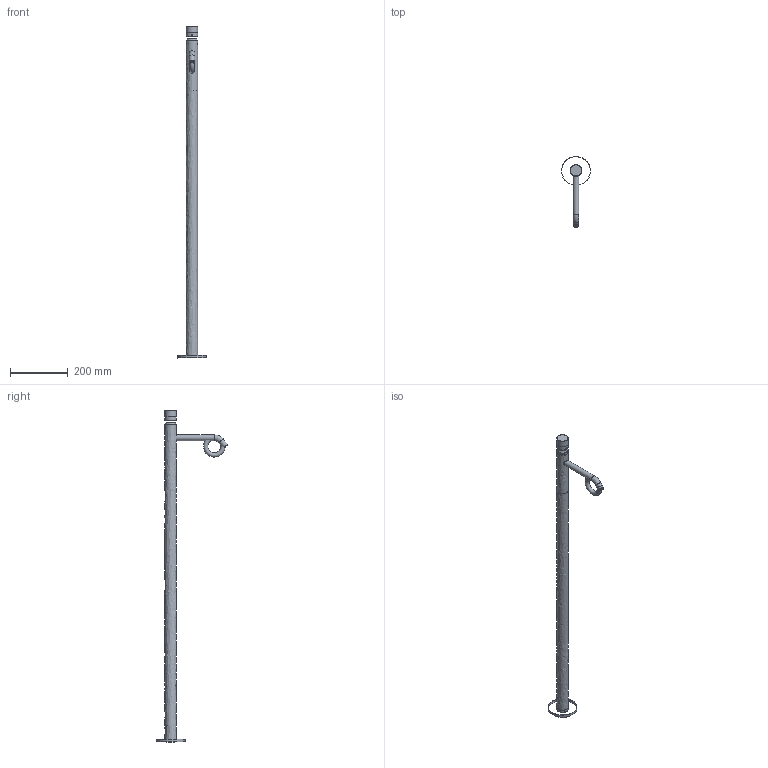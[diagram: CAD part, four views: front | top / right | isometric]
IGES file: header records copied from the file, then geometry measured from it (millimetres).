
Start section: Data from Parasolid IGES Translator 22.0.50, Copyright(c) 2006 Siemens P LM Software. All Rights Reserved.
Global section: file name: noorth-taps-H 115 D 24,8 W 10_5839.igs; native system: By Siemens PLM Incorporated; preprocessor: XPlus GENERIC/IGES 22.0.50; author: Noname; organization: Noname; date: 20260215.162211; units: metre
Bounding box: 100 x 247.95 x 1151.82 mm (x, y, z)
Volume: 114189.2 mm3; surface area: 205609.4 mm2
Topology: 4 solids, 4 shells, 405 faces, 1108 edges, 853 vertices
Faces by surface type: plane 166, cylinder 139, bspline 76, revolution 14, extrusion 4, cone 3, torus 3
Full cylindrical faces by diameter (mm): 1 x52, 13.5 x1, 14.5 x1, 15 x3, 16.5 x1, 20 x2, 23.6 x1, 30 x1, 37 x1, 40 x2
